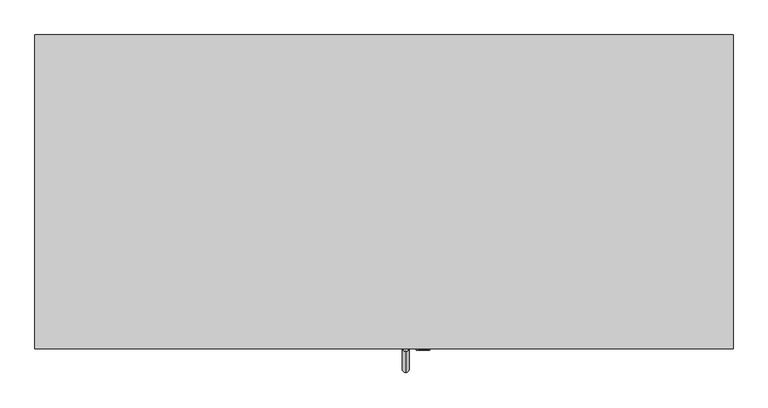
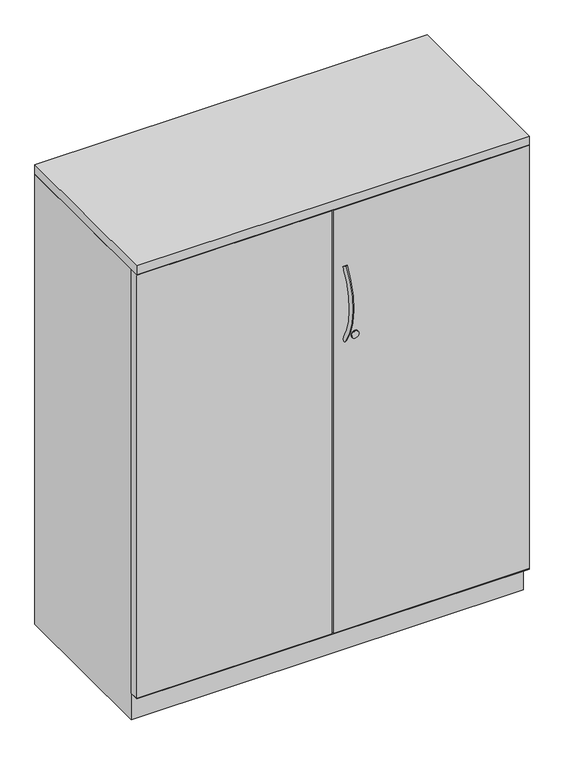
"""IFC4 building model written with IfcOpenShell, lengths in millimetres: furniture geometry, Steelcase - Universal Storage - Cabinet - Storage - 40H-52H - Proud Steel : 52H x 18D x 42W."""

from ifc_helpers import new_model, si_unit, point, frame, frame_2d, origin, place, context, project, spatial, polyline, circle_curve, ellipse_curve, trimmed, segment, composite_curve, outline, extrude, faceted_brep, source, transform, mapped, element, save
from ifc_brep_helpers import plane_surface, revolved_surface, advanced_brep


def furniture_5782d26a(model_context):
    return source(origin(), model_context, "Body", "SolidModel", [
        extrude(outline(polyline([(1066.8, 0.0), (1066.8, -479.552), (0.0, -479.552), (0.0, 0.0), (1066.8, 0.0)])), frame((0.0, 0.0, 1295.4), z_axis=(0.0, 0.0, 1.0), x_axis=(1.0, 0.0, 0.0)), (0.0, 0.0, 1.0), 25.4),
        extrude(outline(polyline([(0.0, -479.552), (0.0, -454.1528418), (530.86, -454.1528418), (530.86, -479.552), (0.0, -479.552)])), frame((0.0, 0.0, 77.724), z_axis=(0.0, 0.0, 1.0), x_axis=(1.0, 0.0, 0.0)), (0.0, 0.0, 1.0), 1216.152),
        extrude(outline(polyline([(1066.8, -454.1528418), (1066.8, -479.552), (535.94, -479.552), (535.94, -454.1528418), (1066.8, -454.1528418)])), frame((0.0, 0.0, 77.724), z_axis=(0.0, 0.0, 1.0), x_axis=(1.0, 0.0, 0.0)), (0.0, 0.0, 1.0), 1216.152),
        extrude(outline(composite_curve([segment(trimmed(circle_curve(frame_2d((917.702, 592.9418131)), 10.16), [point((917.702, 603.1018131))], [point((917.702, 582.7818131))], False, "CARTESIAN"), True, "CONTINUOUS"), segment(trimmed(circle_curve(frame_2d((917.702, 592.9418131)), 10.16), [point((917.702, 582.7818131))], [point((917.702, 603.1018131))], False, "CARTESIAN"), True, "CONTINUOUS")], self_intersect=False)), frame((0.0, -481.965031, 0.0), z_axis=(0.0, 1.0, 0.0), x_axis=(0.0, 0.0, 1.0)), (0.0, 0.0, 1.0), 2.413031),
        advanced_brep(
        [(566.4783765, -474.9744318, 1119.7196018), (566.4783765, -483.5741633, 1125.3900503), (566.4783765, -472.5471581, 911.9931915), (566.4783765, -481.0120418, 906.1233437)],
        [
            (0, 1, circle_curve(frame((566.4783765, -479.2742976, 1122.5548261), z_axis=(0.0, 0.5504787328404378, 0.83484918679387), x_axis=(0.0, -0.83484918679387, 0.5504787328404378)), 5.1504701)),
            (1, 0, circle_curve(frame((566.4783765, -479.2742976, 1122.5548261), z_axis=(0.0, 0.5504787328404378, 0.83484918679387), x_axis=(0.0, -0.83484918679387, 0.5504787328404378)), 5.1504701)),
            (2, 3, circle_curve(frame((566.4783765, -476.7796, 909.0582676), z_axis=(0.0, 0.5698361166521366, -0.8217583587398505), x_axis=(0.0, -0.8217583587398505, -0.5698361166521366)), 5.1504701)),
            (3, 2, circle_curve(frame((566.4783765, -476.7796, 909.0582676), z_axis=(0.0, 0.5698361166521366, -0.8217583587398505), x_axis=(0.0, -0.8217583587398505, -0.5698361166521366)), 5.1504701)),
            (3, 1, circle_curve(frame((566.4783765, -320.178461, 1017.6509992), z_axis=(-1.0, 0.0, 0.0), x_axis=(0.0, -0.83484918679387, 0.5504787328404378)), 195.7188256)),
            (0, 2, circle_curve(frame((566.4783765, -320.178461, 1017.6509992), z_axis=(1.0, 0.0, 0.0), x_axis=(0.0, -0.83484918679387, 0.5504787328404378)), 185.4178854)),
        ],
        [
            plane_surface(frame((566.4783765, -479.2742976, 1122.5548261), z_axis=(0.0, 0.5504787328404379, 0.83484918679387), x_axis=(-1.0, 0.0, 0.0))),
            plane_surface(frame((566.4783765, -476.7796, 909.0582676), z_axis=(0.0, 0.5698361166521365, -0.8217583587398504), x_axis=(-1.0, 0.0, 0.0))),
            revolved_surface(trimmed(ellipse_curve(frame((566.4783765, -479.2742976, 1122.5548261), z_axis=(0.0, 0.5504787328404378, 0.83484918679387), x_axis=(0.0, -0.83484918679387, 0.5504787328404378)), 5.1504701, 5.1504701), [point((566.4783765, -474.9744318, 1119.7196018))], [point((566.4783765, -483.5741633, 1125.3900503))], True, "CARTESIAN"), (566.4783765, -320.178461, 1017.6509992), (1.0, 0.0, 0.0)),
            revolved_surface(trimmed(ellipse_curve(frame((566.4783765, -479.2742976, 1122.5548261), z_axis=(0.0, 0.5504787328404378, 0.83484918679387), x_axis=(0.0, -0.83484918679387, 0.5504787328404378)), 5.1504701, 5.1504701), [point((566.4783765, -483.5741633, 1125.3900503))], [point((566.4783765, -474.9744318, 1119.7196018))], True, "CARTESIAN"), (566.4783765, -320.178461, 1017.6509992), (1.0, 0.0, 0.0)),
        ],
        [
            (0, [[1, 2]]),
            (1, [[3, 4]]),
            (2, [[5, -1, 6, -4]]),
            (3, [[-6, -2, -5, -3]]),
        ],
    ),
        extrude(outline(composite_curve([segment(trimmed(circle_curve(frame_2d((919.3669832, 593.2109835)), 9.7167829), [point((919.3669832, 602.9277664))], [point((919.3669832, 583.4942006))], False, "CARTESIAN"), True, "CONTINUOUS"), segment(trimmed(circle_curve(frame_2d((919.3669832, 593.2109835)), 9.7167829), [point((919.3669832, 583.4942006))], [point((919.3669832, 602.9277664))], False, "CARTESIAN"), True, "CONTINUOUS")], self_intersect=False)), frame((0.0, -480.2215275, 0.0), z_axis=(0.0, 1.0, 0.0), x_axis=(0.0, 0.0, 1.0)), (0.0, 0.0, 1.0), 0.6695275),
        faceted_brep([(1066.8, 0.0, 0.0), (1066.8, -452.6288432, 0.0), (0.0, -452.6288432, 0.0), (0.0, 0.0, 0.0), (0.0, 0.0, 1293.876), (1066.8, 0.0, 1293.876), (0.0, -452.6288432, 76.2), (0.0, -479.552, 76.2), (0.0, -479.552, 77.724), (0.0, -452.6288432, 77.724), (0.0, -452.6288432, 1293.876), (1066.8, -452.6288432, 76.2), (1066.8, -452.6288432, 1293.876), (1066.8, -452.6288432, 77.724), (1066.8, -479.4258418, 77.724), (1066.8, -479.552, 76.2), (1041.4000242, -25.4000008, 1293.876), (1041.4000242, -452.6288432, 1293.876), (25.3999758, -452.6288432, 1293.876), (25.3999758, -25.4000008, 1293.876), (1041.4000242, -25.4000008, 77.724), (1041.4000242, -452.6288432, 77.724), (25.3999758, -452.6288432, 77.724), (25.3999758, -25.4000008, 77.724), (4.6981334, -454.1528418, 77.724), (1041.4000242, -454.1528418, 77.724)], [[[0, 1, 2, 3]], [[0, 3, 4, 5]], [[4, 3, 2, 6, 7, 8, 9, 10]], [[2, 1, 11, 6]], [[1, 0, 5, 12, 13, 14, 15, 11]], [[16, 17, 12, 5, 4, 10, 18, 19]], [[17, 16, 20, 21]], [[12, 17, 21, 13]], [[18, 10, 9, 22]], [[19, 18, 22, 23]], [[16, 19, 23, 20]], [[8, 24, 25, 14, 13, 21, 20, 23, 22, 9]], [[15, 7, 6, 11]], [[24, 8, 7]], [[25, 24, 7, 15]], [[14, 25, 15]]]),
    ])


if __name__ == "__main__":
    model = new_model("IFC4")
    model_context = context("Model", 3, world=origin())
    ifc_project = project(units=[si_unit("LENGTHUNIT", "METRE", prefix="MILLI")], contexts=[model_context])
    site = spatial("IfcSite", under=ifc_project)
    building = spatial("IfcBuilding", under=site)
    placement = place(None, origin())
    furniture_shape = furniture_5782d26a(model_context)
    element("IfcFurniture", 1, ObjectType="Steelcase - Universal Storage - Cabinet - Storage - 40H-52H - Proud Steel : 52H x 18D x 42W", at=placement, inside=building, context=model_context, shape_type="MappedRepresentation", body=[
        mapped(furniture_shape, transform((0.0, 0.0, 0.0), x_axis=(1.0, 0.0, 0.0), y_axis=(0.0, 1.0, 0.0), z_axis=(0.0, 0.0, 1.0))),
    ])
    save(model, "model.ifc")
